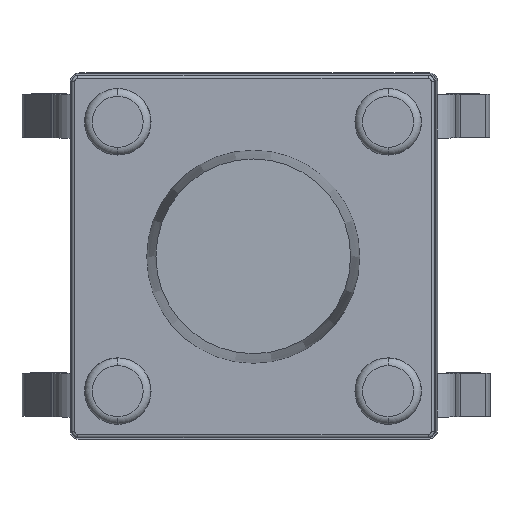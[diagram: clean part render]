
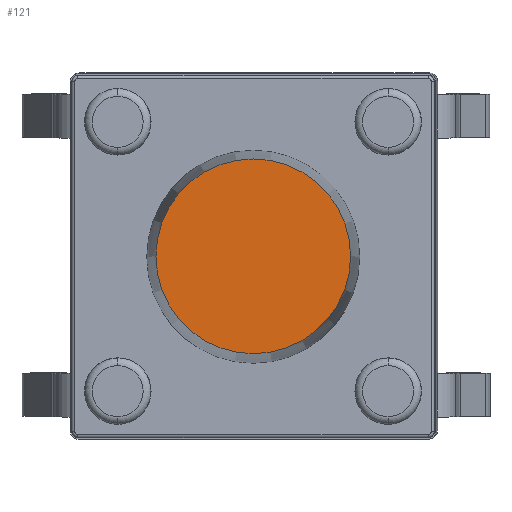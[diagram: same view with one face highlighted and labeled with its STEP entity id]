
A CAD part, top view. The second image highlights one B-rep face of the part: STEP entity #121.
In plain terms, the highlighted planar face has unit normal (0, 0, 1).
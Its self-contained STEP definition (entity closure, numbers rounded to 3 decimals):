
#58 = CONICAL_SURFACE('',#59,1.75,0.037);
#59 = AXIS2_PLACEMENT_3D('',#60,#61,#62);
#60 = CARTESIAN_POINT('',(-6.025,-0.033,3.65));
#61 = DIRECTION('',(-0.,-0.,-1.));
#62 = DIRECTION('',(1.,0.,0.));
#75 = VERTEX_POINT('',#76);
#76 = CARTESIAN_POINT('',(-4.425,-0.033,7.65));
#94 = EDGE_CURVE('',#75,#75,#95,.T.);
#95 = SURFACE_CURVE('',#96,(#101,#108),.PCURVE_S1.);
#96 = CIRCLE('',#97,1.6);
#97 = AXIS2_PLACEMENT_3D('',#98,#99,#100);
#98 = CARTESIAN_POINT('',(-6.025,-0.033,7.65));
#99 = DIRECTION('',(0.,0.,1.));
#100 = DIRECTION('',(1.,0.,0.));
#101 = PCURVE('',#58,#102);
#102 = DEFINITIONAL_REPRESENTATION('',(#103),#107);
#103 = LINE('',#104,#105);
#104 = CARTESIAN_POINT('',(-0.,-4.));
#105 = VECTOR('',#106,1.);
#106 = DIRECTION('',(-1.,-0.));
#107 = ( GEOMETRIC_REPRESENTATION_CONTEXT(2) 
PARAMETRIC_REPRESENTATION_CONTEXT() REPRESENTATION_CONTEXT('2D SPACE',''
  ) );
#108 = PCURVE('',#109,#114);
#109 = PLANE('',#110);
#110 = AXIS2_PLACEMENT_3D('',#111,#112,#113);
#111 = CARTESIAN_POINT('',(-6.025,-0.033,7.65));
#112 = DIRECTION('',(0.,0.,1.));
#113 = DIRECTION('',(1.,0.,0.));
#114 = DEFINITIONAL_REPRESENTATION('',(#115),#119);
#115 = CIRCLE('',#116,1.6);
#116 = AXIS2_PLACEMENT_2D('',#117,#118);
#117 = CARTESIAN_POINT('',(0.,0.));
#118 = DIRECTION('',(1.,0.));
#119 = ( GEOMETRIC_REPRESENTATION_CONTEXT(2) 
PARAMETRIC_REPRESENTATION_CONTEXT() REPRESENTATION_CONTEXT('2D SPACE',''
  ) );
#121 = ADVANCED_FACE('',(#122),#109,.T.);
#122 = FACE_BOUND('',#123,.T.);
#123 = EDGE_LOOP('',(#124));
#124 = ORIENTED_EDGE('',*,*,#94,.T.);
